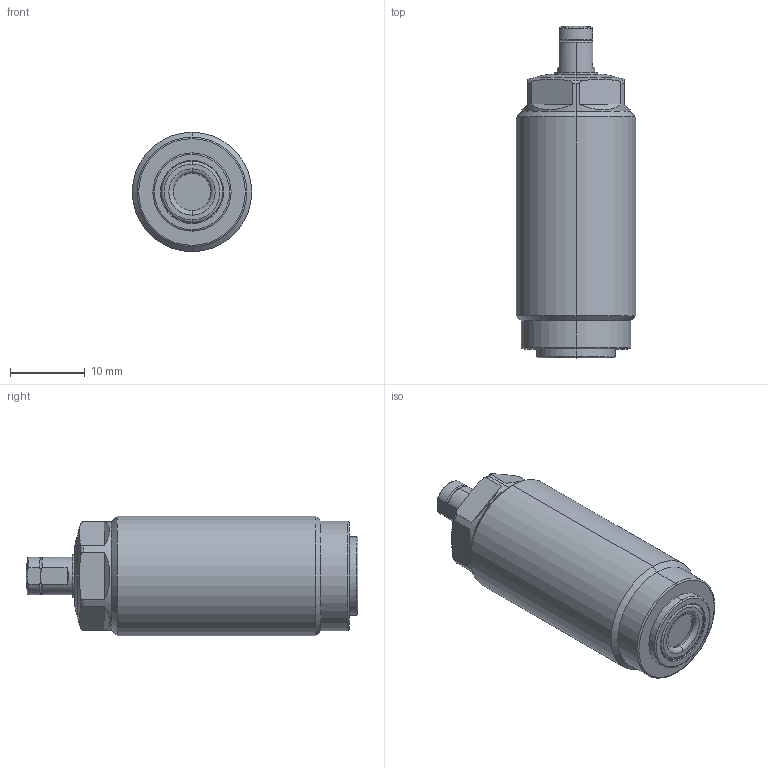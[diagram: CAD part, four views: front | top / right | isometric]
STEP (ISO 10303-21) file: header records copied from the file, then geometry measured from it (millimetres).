
FILE_DESCRIPTION(/* description */ (''),/* implementation_level */ '2;1');
FILE_NAME(/* name */ 'TNL16.stp',/* time_stamp */ '2024-04-27T17:16:18+08:00',/* author */ (''),/* organization */ (''),/* preprocessor_version */ 'ST-DEVELOPER v16.7',/* originating_system */ 'SIEMENS PLM Software NX 12.0',/* authorisation */ '');
FILE_SCHEMA (('AP203_CONFIGURATION_CONTROLLED_3D_DESIGN_OF_MECHANICAL_PARTS_AND_ASSEMBLIES_MIM_LF { 1 0 10303 403 2 1 2}'));
Length unit declared in the file: millimetre
Products named in the file (6): XLD-M3_contactbolt; XLD-M3_Oring; TNL16-03; TNL16-01; TNL16-02; WNC0103-x_step
Assembly tree (5 placements, depth 3):
  WNC0103-x_step
    TNL16-01
    TNL16-02
      XLD-M3_Oring
      XLD-M3_contactbolt
    TNL16-03
Bounding box: 16 x 44.5 x 16 mm (x, y, z)
Volume: 7113 mm3; surface area: 2702 mm2
Topology: 4 solids, 4 shells, 132 faces, 293 edges, 178 vertices
Faces by surface type: torus 40, cylinder 34, plane 34, cone 22, sphere 2
Entity records: 4717 total; most frequent: CARTESIAN_POINT 1059, DIRECTION 700, ORIENTED_EDGE 586, AXIS2_PLACEMENT_3D 307, EDGE_CURVE 293, VERTEX_POINT 178, CIRCLE 169, EDGE_LOOP 145
